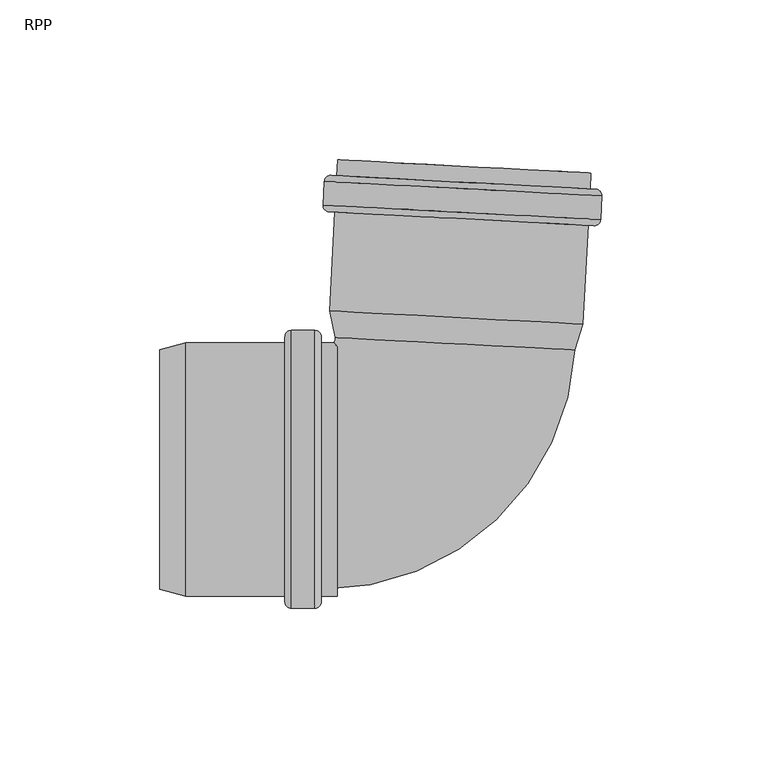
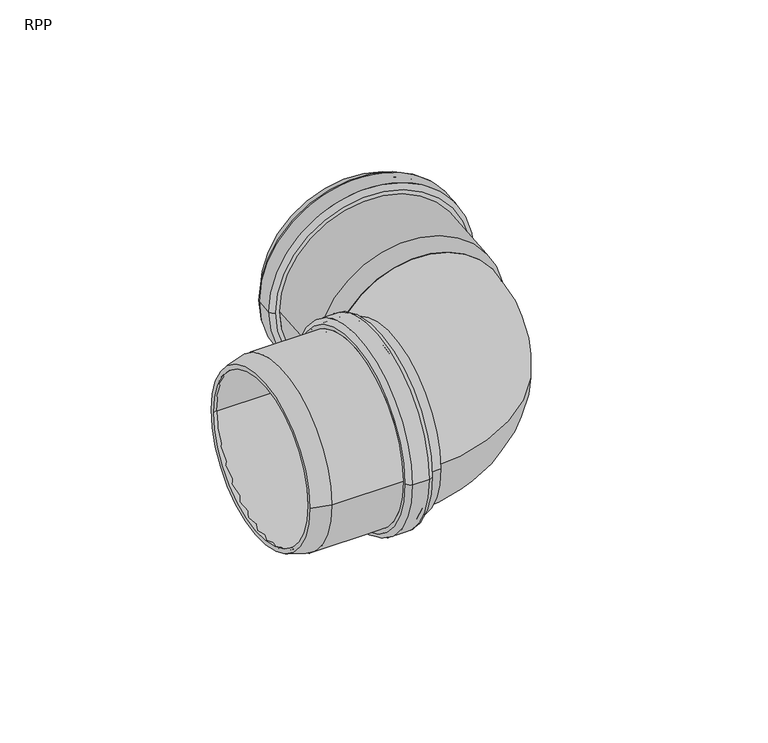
"""IFC4 building model written with IfcOpenShell, lengths in millimetres: pipe fitting geometry, RAUPIANO PLUS Bend : RPP."""

from ifc_helpers import new_model, si_unit, point, frame, origin, place, context, project, spatial, polyline, circle_curve, ellipse_curve, trimmed, source, transform, mapped, element, save
from ifc_brep_helpers import plane_surface, cylinder_surface, revolved_surface, advanced_brep


def rpp_31e62ba4(model_context):
    return source(origin(), model_context, "Body", "AdvancedBrep", [
        advanced_brep(
        [(-49.2820295, -37.8, 0.0), (-49.2820295, 37.8, 0.0), (-81.921378, 37.8, 0.0), (-81.921378, -37.8, 0.0), (-48.7820295, -41.6, 0.0), (-48.7820295, 41.6, 0.0), (-49.2820295, 41.1, 0.0), (-49.2820295, -41.1, 0.0), (-42.1820295, -41.6, 0.0), (-42.1820295, 41.6, 0.0), (-41.6820295, -41.1, 0.0), (-41.6820295, 41.1, 0.0), (-34.7820295, -37.8, 0.0), (-34.7820295, 37.8, 0.0), (-41.6820295, 37.8, 0.0), (-41.6820295, -37.8, 0.0), (-39.7820295, -39.7, 0.0), (-39.7820295, 39.7, 0.0), (-34.7820295, 39.7, 0.0), (-34.7820295, -39.7, 0.0), (-41.7820295, -43.5, 0.0), (-41.7820295, 43.5, 0.0), (-39.7820295, 41.5, 0.0), (-39.7820295, -41.5, 0.0), (-49.1820295, -43.5, 0.0), (-49.1820295, 43.5, 0.0), (-51.1820295, -41.5, 0.0), (-51.1820295, 41.5, 0.0), (-82.1715177, -39.7, 0.0), (-82.1715177, 39.7, 0.0), (-51.1820295, 39.7, 0.0), (-51.1820295, -39.7, 0.0), (-90.3820295, -37.5, 0.0), (-90.3820295, 37.5, 0.0), (-90.3820295, 35.5329753, 0.0), (-90.3820295, -35.5329753, 0.0)],
        [
            (0, 1, circle_curve(frame((-49.2820295, 0.0, 0.0), z_axis=(1.0, 0.0, 0.0), x_axis=(0.0, 1.0, 0.0)), 37.8)),
            (1, 2),
            (2, 3, circle_curve(frame((-81.921378, 0.0, 0.0), z_axis=(-1.0, 0.0, 0.0), x_axis=(0.0, 1.0, 0.0)), 37.8)),
            (3, 0),
            (4, 5, circle_curve(frame((-48.7820295, 0.0, 0.0), z_axis=(1.0, 0.0, 0.0), x_axis=(0.0, 1.0, 0.0)), 41.6)),
            (5, 6, circle_curve(frame((-48.7820295, 41.1, 0.0), z_axis=(0.0, 0.0, 1.0), x_axis=(0.0, -1.0, 0.0)), 0.5)),
            (6, 7, circle_curve(frame((-49.2820295, 0.0, 0.0), z_axis=(-1.0, 0.0, 0.0), x_axis=(0.0, 1.0, 0.0)), 41.1)),
            (7, 4, circle_curve(frame((-48.7820295, -41.1, 0.0), z_axis=(0.0, 0.0, 1.0), x_axis=(0.0, 1.0, 0.0)), 0.5)),
            (8, 9, circle_curve(frame((-42.1820295, 0.0, 0.0), z_axis=(1.0, 0.0, 0.0), x_axis=(0.0, 1.0, 0.0)), 41.6)),
            (9, 5),
            (4, 8),
            (10, 11, circle_curve(frame((-41.6820295, 0.0, 0.0), z_axis=(1.0, 0.0, 0.0), x_axis=(0.0, 1.0, 0.0)), 41.1)),
            (11, 9, circle_curve(frame((-42.1820295, 41.1, 0.0), z_axis=(0.0, 0.0, 1.0), x_axis=(0.0, -1.0, 0.0)), 0.5)),
            (8, 10, circle_curve(frame((-42.1820295, -41.1, 0.0), z_axis=(0.0, 0.0, 1.0), x_axis=(0.0, 1.0, 0.0)), 0.5)),
            (12, 13, circle_curve(frame((-34.7820295, 0.0, 0.0), z_axis=(1.0, 0.0, 0.0), x_axis=(0.0, 1.0, 0.0)), 37.8)),
            (13, 14),
            (14, 15, circle_curve(frame((-41.6820295, 0.0, 0.0), z_axis=(-1.0, 0.0, 0.0), x_axis=(0.0, 1.0, 0.0)), 37.8)),
            (15, 12),
            (16, 17, circle_curve(frame((-39.7820295, 0.0, 0.0), z_axis=(1.0, 0.0, 0.0), x_axis=(0.0, 1.0, 0.0)), 39.7)),
            (17, 18),
            (18, 19, circle_curve(frame((-34.7820295, 0.0, 0.0), z_axis=(-1.0, 0.0, 0.0), x_axis=(0.0, 1.0, 0.0)), 39.7)),
            (19, 16),
            (20, 21, circle_curve(frame((-41.7820295, 0.0, 0.0), z_axis=(1.0, 0.0, 0.0), x_axis=(0.0, 1.0, 0.0)), 43.5)),
            (21, 22, circle_curve(frame((-41.7820295, 41.5, 0.0), z_axis=(0.0, 0.0, -1.0), x_axis=(0.0, -1.0, 0.0)), 2.0)),
            (22, 23, circle_curve(frame((-39.7820295, 0.0, 0.0), z_axis=(-1.0, 0.0, 0.0), x_axis=(0.0, 1.0, 0.0)), 41.5)),
            (23, 20, circle_curve(frame((-41.7820295, -41.5, 0.0), z_axis=(0.0, 0.0, -1.0), x_axis=(0.0, 1.0, 0.0)), 2.0)),
            (24, 25, circle_curve(frame((-49.1820295, 0.0, 0.0), z_axis=(1.0, 0.0, 0.0), x_axis=(0.0, 1.0, 0.0)), 43.5)),
            (25, 21),
            (20, 24),
            (26, 27, circle_curve(frame((-51.1820295, 0.0, 0.0), z_axis=(1.0, 0.0, 0.0), x_axis=(0.0, 1.0, 0.0)), 41.5)),
            (27, 25, circle_curve(frame((-49.1820295, 41.5, 0.0), z_axis=(0.0, 0.0, -1.0), x_axis=(0.0, -1.0, 0.0)), 2.0)),
            (24, 26, circle_curve(frame((-49.1820295, -41.5, 0.0), z_axis=(0.0, 0.0, -1.0), x_axis=(0.0, 1.0, 0.0)), 2.0)),
            (28, 29, circle_curve(frame((-82.1715177, 0.0, 0.0), z_axis=(1.0, 0.0, 0.0), x_axis=(0.0, 1.0, 0.0)), 39.7)),
            (29, 30),
            (30, 31, circle_curve(frame((-51.1820295, 0.0, 0.0), z_axis=(-1.0, 0.0, 0.0), x_axis=(0.0, 1.0, 0.0)), 39.7)),
            (31, 28),
            (32, 33, circle_curve(frame((-90.3820295, 0.0, 0.0), z_axis=(1.0, 0.0, 0.0), x_axis=(0.0, 1.0, 0.0)), 37.5)),
            (33, 29),
            (28, 32),
            (2, 34),
            (34, 35, circle_curve(frame((-90.3820295, 0.0, 0.0), z_axis=(-1.0, 0.0, 0.0), x_axis=(0.0, 1.0, 0.0)), 35.5329753)),
            (35, 3),
            (1, 0, circle_curve(frame((-49.2820295, 0.0, 0.0), z_axis=(1.0, 0.0, 0.0), x_axis=(0.0, -1.0, 0.0)), 37.8)),
            (3, 2, circle_curve(frame((-81.921378, 0.0, 0.0), z_axis=(-1.0, 0.0, 0.0), x_axis=(0.0, -1.0, 0.0)), 37.8)),
            (6, 7, circle_curve(frame((-49.2820295, 0.0, 0.0), z_axis=(1.0, 0.0, 0.0), x_axis=(0.0, -1.0, 0.0)), 41.1)),
            (5, 4, circle_curve(frame((-48.7820295, 0.0, 0.0), z_axis=(1.0, 0.0, 0.0), x_axis=(0.0, -1.0, 0.0)), 41.6)),
            (9, 8, circle_curve(frame((-42.1820295, 0.0, 0.0), z_axis=(1.0, 0.0, 0.0), x_axis=(0.0, -1.0, 0.0)), 41.6)),
            (11, 10, circle_curve(frame((-41.6820295, 0.0, 0.0), z_axis=(1.0, 0.0, 0.0), x_axis=(0.0, -1.0, 0.0)), 41.1)),
            (14, 15, circle_curve(frame((-41.6820295, 0.0, 0.0), z_axis=(1.0, 0.0, 0.0), x_axis=(0.0, -1.0, 0.0)), 37.8)),
            (13, 12, circle_curve(frame((-34.7820295, 0.0, 0.0), z_axis=(1.0, 0.0, 0.0), x_axis=(0.0, -1.0, 0.0)), 37.8)),
            (18, 19, circle_curve(frame((-34.7820295, 0.0, 0.0), z_axis=(1.0, 0.0, 0.0), x_axis=(0.0, -1.0, 0.0)), 39.7)),
            (17, 16, circle_curve(frame((-39.7820295, 0.0, 0.0), z_axis=(1.0, 0.0, 0.0), x_axis=(0.0, -1.0, 0.0)), 39.7)),
            (22, 23, circle_curve(frame((-39.7820295, 0.0, 0.0), z_axis=(1.0, 0.0, 0.0), x_axis=(0.0, -1.0, 0.0)), 41.5)),
            (21, 20, circle_curve(frame((-41.7820295, 0.0, 0.0), z_axis=(1.0, 0.0, 0.0), x_axis=(0.0, -1.0, 0.0)), 43.5)),
            (25, 24, circle_curve(frame((-49.1820295, 0.0, 0.0), z_axis=(1.0, 0.0, 0.0), x_axis=(0.0, -1.0, 0.0)), 43.5)),
            (27, 26, circle_curve(frame((-51.1820295, 0.0, 0.0), z_axis=(1.0, 0.0, 0.0), x_axis=(0.0, -1.0, 0.0)), 41.5)),
            (30, 31, circle_curve(frame((-51.1820295, 0.0, 0.0), z_axis=(1.0, 0.0, 0.0), x_axis=(0.0, -1.0, 0.0)), 39.7)),
            (29, 28, circle_curve(frame((-82.1715177, 0.0, 0.0), z_axis=(1.0, 0.0, 0.0), x_axis=(0.0, -1.0, 0.0)), 39.7)),
            (33, 32, circle_curve(frame((-90.3820295, 0.0, 0.0), z_axis=(1.0, 0.0, 0.0), x_axis=(0.0, -1.0, 0.0)), 37.5)),
            (34, 35, circle_curve(frame((-90.3820295, 0.0, 0.0), z_axis=(1.0, 0.0, 0.0), x_axis=(0.0, -1.0, 0.0)), 35.5329753)),
        ],
        [
            revolved_surface(polyline([(-81.921378, 37.8, 0.0), (-49.2820295, 37.8, 0.0)]), (-90.3820295, 0.0, 0.0), (-1.0, 0.0, 0.0)),
            revolved_surface(trimmed(ellipse_curve(frame((-48.7820295, 41.1, 0.0), z_axis=(0.0, 0.0, -1.0), x_axis=(0.0, -1.0, 0.0)), 0.5, 0.5), [point((-49.2820295, 41.1, 0.0))], [point((-48.7820295, 41.6, 0.0))], True, "CARTESIAN"), (-90.3820295, 0.0, 0.0), (-1.0, 0.0, 0.0)),
            revolved_surface(polyline([(-48.7820295, 41.6, 0.0), (-42.1820295, 41.6, 0.0)]), (-90.3820295, 0.0, 0.0), (-1.0, 0.0, 0.0)),
            revolved_surface(trimmed(ellipse_curve(frame((-42.1820295, 41.1, 0.0), z_axis=(0.0, 0.0, -1.0), x_axis=(0.0, -1.0, 0.0)), 0.5, 0.5), [point((-42.1820295, 41.6, 0.0))], [point((-41.6820295, 41.1, 0.0))], True, "CARTESIAN"), (-90.3820295, 0.0, 0.0), (-1.0, 0.0, 0.0)),
            revolved_surface(polyline([(-41.6820295, 37.8, 0.0), (-34.7820295, 37.8, 0.0)]), (-90.3820295, 0.0, 0.0), (-1.0, 0.0, 0.0)),
            cylinder_surface(frame((-90.3820295, 0.0, 0.0), z_axis=(-1.0, 0.0, 0.0), x_axis=(0.0, 1.0, 0.0)), 39.7),
            revolved_surface(trimmed(ellipse_curve(frame((-41.7820295, 41.5, 0.0), z_axis=(0.0, 0.0, 1.0), x_axis=(0.0, -1.0, 0.0)), 2.0, 2.0), [point((-39.7820295, 41.5, 0.0))], [point((-41.7820295, 43.5, 0.0))], True, "CARTESIAN"), (-90.3820295, 0.0, 0.0), (-1.0, 0.0, 0.0)),
            cylinder_surface(frame((-90.3820295, 0.0, 0.0), z_axis=(-1.0, 0.0, 0.0), x_axis=(0.0, 1.0, 0.0)), 43.5),
            revolved_surface(trimmed(ellipse_curve(frame((-49.1820295, 41.5, 0.0), z_axis=(0.0, 0.0, 1.0), x_axis=(0.0, -1.0, 0.0)), 2.0, 2.0), [point((-49.1820295, 43.5, 0.0))], [point((-51.1820295, 41.5, 0.0))], True, "CARTESIAN"), (-90.3820295, 0.0, 0.0), (-1.0, 0.0, 0.0)),
            revolved_surface(polyline([(-82.1715177, 39.7, 0.0), (-90.3820295, 37.5, 0.0)]), (-90.3820295, 0.0, 0.0), (-1.0, 0.0, 0.0)),
            revolved_surface(polyline([(-90.3820295, 35.5329753, 0.0), (-81.921378, 37.8, 0.0)]), (-90.3820295, 0.0, 0.0), (-1.0, 0.0, 0.0)),
            revolved_surface(polyline([(-81.921378, -37.8, 0.0), (-49.2820295, -37.8, 0.0)]), (-90.3820295, 0.0, 0.0), (-1.0, 0.0, 0.0)),
            plane_surface(frame((-49.2820295, 0.0, 0.0), z_axis=(1.0, 0.0, 0.0), x_axis=(0.0, -1.0, 0.0))),
            revolved_surface(trimmed(ellipse_curve(frame((-48.7820295, -41.1, 0.0), z_axis=(0.0, 0.0, 1.0), x_axis=(0.0, 1.0, 0.0)), 0.5, 0.5), [point((-49.2820295, -41.1, 0.0))], [point((-48.7820295, -41.6, 0.0))], True, "CARTESIAN"), (-90.3820295, 0.0, 0.0), (-1.0, 0.0, 0.0)),
            revolved_surface(polyline([(-48.7820295, -41.6, 0.0), (-42.1820295, -41.6, 0.0)]), (-90.3820295, 0.0, 0.0), (-1.0, 0.0, 0.0)),
            revolved_surface(trimmed(ellipse_curve(frame((-42.1820295, -41.1, 0.0), z_axis=(0.0, 0.0, 1.0), x_axis=(0.0, 1.0, 0.0)), 0.5, 0.5), [point((-42.1820295, -41.6, 0.0))], [point((-41.6820295, -41.1, 0.0))], True, "CARTESIAN"), (-90.3820295, 0.0, 0.0), (-1.0, 0.0, 0.0)),
            plane_surface(frame((-41.6820295, 0.0, 0.0), z_axis=(-1.0, 0.0, 0.0), x_axis=(0.0, -1.0, 0.0))),
            revolved_surface(polyline([(-41.6820295, -37.8, 0.0), (-34.7820295, -37.8, 0.0)]), (-90.3820295, 0.0, 0.0), (-1.0, 0.0, 0.0)),
            plane_surface(frame((-34.7820295, 0.0, 0.0), z_axis=(1.0, 0.0, 0.0), x_axis=(0.0, -1.0, 0.0))),
            cylinder_surface(frame((-90.3820295, 0.0, 0.0), z_axis=(-1.0, 0.0, 0.0), x_axis=(0.0, -1.0, 0.0)), 39.7),
            plane_surface(frame((-39.7820295, 0.0, 0.0), z_axis=(1.0, 0.0, 0.0), x_axis=(0.0, -1.0, 0.0))),
            revolved_surface(trimmed(ellipse_curve(frame((-41.7820295, -41.5, 0.0), z_axis=(0.0, 0.0, -1.0), x_axis=(0.0, 1.0, 0.0)), 2.0, 2.0), [point((-39.7820295, -41.5, 0.0))], [point((-41.7820295, -43.5, 0.0))], True, "CARTESIAN"), (-90.3820295, 0.0, 0.0), (-1.0, 0.0, 0.0)),
            cylinder_surface(frame((-90.3820295, 0.0, 0.0), z_axis=(-1.0, 0.0, 0.0), x_axis=(0.0, -1.0, 0.0)), 43.5),
            revolved_surface(trimmed(ellipse_curve(frame((-49.1820295, -41.5, 0.0), z_axis=(0.0, 0.0, -1.0), x_axis=(0.0, 1.0, 0.0)), 2.0, 2.0), [point((-49.1820295, -43.5, 0.0))], [point((-51.1820295, -41.5, 0.0))], True, "CARTESIAN"), (-90.3820295, 0.0, 0.0), (-1.0, 0.0, 0.0)),
            plane_surface(frame((-51.1820295, 0.0, 0.0), z_axis=(-1.0, 0.0, 0.0), x_axis=(0.0, -1.0, 0.0))),
            revolved_surface(polyline([(-82.1715177, -39.7, 0.0), (-90.3820295, -37.5, 0.0)]), (-90.3820295, 0.0, 0.0), (-1.0, 0.0, 0.0)),
            plane_surface(frame((-90.3820295, 0.0, 0.0), z_axis=(-1.0, 0.0, 0.0), x_axis=(0.0, -1.0, 0.0))),
            revolved_surface(polyline([(-90.3820295, -35.5329753, 0.0), (-81.921378, -37.8, 0.0)]), (-90.3820295, 0.0, 0.0), (-1.0, 0.0, 0.0)),
        ],
        [
            (0, [[1, 2, 3, 4]]),
            (1, [[5, 6, 7, 8]]),
            (2, [[9, 10, -5, 11]]),
            (3, [[12, 13, -9, 14]]),
            (4, [[15, 16, 17, 18]]),
            (5, [[19, 20, 21, 22]]),
            (6, [[23, 24, 25, 26]]),
            (7, [[27, 28, -23, 29]]),
            (8, [[30, 31, -27, 32]]),
            (5, [[33, 34, 35, 36]]),
            (9, [[37, 38, -33, 39]]),
            (10, [[-3, 40, 41, 42]]),
            (11, [[43, -4, 44, -2]]),
            (12, [[45, -7], [-43, -1]]),
            (13, [[46, -8, -45, -6]]),
            (14, [[47, -11, -46, -10]]),
            (15, [[48, -14, -47, -13]]),
            (16, [[-48, -12], [49, -17]]),
            (17, [[50, -18, -49, -16]]),
            (18, [[51, -21], [-50, -15]]),
            (19, [[52, -22, -51, -20]]),
            (20, [[53, -25], [-52, -19]]),
            (21, [[54, -26, -53, -24]]),
            (22, [[55, -29, -54, -28]]),
            (23, [[56, -32, -55, -31]]),
            (24, [[-56, -30], [57, -35]]),
            (19, [[58, -36, -57, -34]]),
            (25, [[59, -39, -58, -38]]),
            (26, [[-59, -37], [60, -41]]),
            (27, [[-44, -42, -60, -40]]),
        ],
    ),
        advanced_brep(
        [(37.5453747, 37.4684056, 0.0), (-33.4231824, 41.1877101, 0.0), (-35.244304, 49.7554135, 0.0), (40.2520889, 45.7988152, 0.0), (42.1363937, 45.4495799, 0.0), (-37.1547914, 49.6050548, 0.0), (-35.3875114, 41.2906562, 0.0), (39.5097037, 37.3654595, 0.0), (43.7582582, 76.3965981, 0.0), (-35.5329269, 80.552073, 0.0), (48.0450084, 85.5848391, 0.0), (-38.8357611, 90.1380673, 0.0), (-39.2230472, 82.7482087, 0.0), (47.6577223, 78.1949806, 0.0), (44.6165679, 92.7741225, 0.0), (-34.6746172, 96.9295974, 0.0), (-34.936297, 91.9364497, 0.0), (44.3548881, 87.7809748, 0.0), (42.3580537, 85.983017, 0.0), (-33.1383392, 89.9396153, 0.0), (-32.7772211, 96.8301591, 0.0), (42.7191718, 92.8735608, 0.0), (45.7812606, 78.6938707, 0.0), (-37.3047167, 83.0482222, 0.0), (-36.9592994, 89.6391772, 0.0), (46.1266779, 85.2848256, 0.0), (-33.5360924, 82.3500308, 0.0), (41.9603004, 78.3934325, 0.0), (-37.33046, 80.6462778, 0.0), (45.5557914, 76.3023934, 0.0), (46.1524213, 87.6867701, 0.0), (-36.7338301, 92.0306545, 0.0), (-36.4338166, 90.112324, 0.0), (45.6535311, 85.8103084, 0.0), (45.2557779, 78.2207239, 0.0), (-36.8315699, 82.5227395, 0.0)],
        [
            (0, 1, circle_curve(frame((2.0610962, 39.3280578, 0.0), z_axis=(-0.05233595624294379, -0.9986295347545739, 0.0), x_axis=(-0.9986295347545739, 0.05233595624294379, 0.0)), 35.5329753)),
            (1, 2),
            (2, 3, circle_curve(frame((2.5038925, 47.7771143, 0.0), z_axis=(0.05233595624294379, 0.9986295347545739, 0.0), x_axis=(-0.9986295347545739, 0.05233595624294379, 0.0)), 37.8)),
            (3, 0),
            (4, 5, circle_curve(frame((2.4908012, 47.5273174, 0.0), z_axis=(-0.05233595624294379, -0.9986295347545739, 0.0), x_axis=(-0.9986295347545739, 0.05233595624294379, 0.0)), 39.7)),
            (5, 6),
            (6, 7, circle_curve(frame((2.0610962, 39.3280578, 0.0), z_axis=(0.05233595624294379, 0.9986295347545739, 0.0), x_axis=(-0.9986295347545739, 0.05233595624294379, 0.0)), 37.5)),
            (7, 4),
            (8, 9, circle_curve(frame((4.1126657, 78.4743356, 0.0), z_axis=(-0.05233595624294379, -0.9986295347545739, 0.0), x_axis=(-0.9986295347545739, 0.05233595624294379, 0.0)), 39.7)),
            (9, 5),
            (4, 8),
            (10, 11, circle_curve(frame((4.6046236, 87.8614532, 0.0), z_axis=(-0.05233595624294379, -0.9986295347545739, 0.0), x_axis=(-0.9986295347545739, 0.05233595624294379, 0.0)), 43.5)),
            (11, 12),
            (12, 13, circle_curve(frame((4.2173376, 80.4715946, 0.0), z_axis=(0.05233595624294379, 0.9986295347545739, 0.0), x_axis=(-0.9986295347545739, 0.05233595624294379, 0.0)), 43.5)),
            (13, 10),
            (14, 15, circle_curve(frame((4.9709753, 94.8518599, 0.0), z_axis=(-0.05233595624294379, -0.9986295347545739, 0.0), x_axis=(-0.9986295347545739, 0.05233595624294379, 0.0)), 39.7)),
            (15, 16),
            (16, 17, circle_curve(frame((4.7092956, 89.8587123, 0.0), z_axis=(0.05233595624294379, 0.9986295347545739, 0.0), x_axis=(-0.9986295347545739, 0.05233595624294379, 0.0)), 39.7)),
            (17, 14),
            (18, 19, circle_curve(frame((4.6098572, 87.9613162, 0.0), z_axis=(-0.05233595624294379, -0.9986295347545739, 0.0), x_axis=(-0.9986295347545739, 0.05233595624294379, 0.0)), 37.8)),
            (19, 20),
            (20, 21, circle_curve(frame((4.9709753, 94.8518599, 0.0), z_axis=(0.05233595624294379, 0.9986295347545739, 0.0), x_axis=(-0.9986295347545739, 0.05233595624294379, 0.0)), 37.8)),
            (21, 18),
            (22, 23, circle_curve(frame((4.238272, 80.8710465, 0.0), z_axis=(-0.05233595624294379, -0.9986295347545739, 0.0), x_axis=(-0.9986295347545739, 0.05233595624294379, 0.0)), 41.6)),
            (23, 24),
            (24, 25, circle_curve(frame((4.5836893, 87.4620014, 0.0), z_axis=(0.05233595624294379, 0.9986295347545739, 0.0), x_axis=(-0.9986295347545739, 0.05233595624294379, 0.0)), 41.6)),
            (25, 22),
            (2, 26),
            (26, 27, circle_curve(frame((4.212104, 80.3717317, 0.0), z_axis=(0.05233595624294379, 0.9986295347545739, 0.0), x_axis=(-0.9986295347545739, 0.05233595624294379, 0.0)), 37.8)),
            (27, 3),
            (1, 0, circle_curve(frame((2.0610962, 39.3280578, 0.0), z_axis=(-0.05233595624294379, -0.9986295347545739, 0.0), x_axis=(0.9986295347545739, -0.05233595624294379, 0.0)), 35.5329753)),
            (3, 2, circle_curve(frame((2.5038925, 47.7771143, 0.0), z_axis=(0.05233595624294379, 0.9986295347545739, 0.0), x_axis=(0.9986295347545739, -0.05233595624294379, 0.0)), 37.8)),
            (6, 7, circle_curve(frame((2.0610962, 39.3280578, 0.0), z_axis=(-0.05233595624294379, -0.9986295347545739, 0.0), x_axis=(0.9986295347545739, -0.05233595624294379, 0.0)), 37.5)),
            (5, 4, circle_curve(frame((2.4908012, 47.5273174, 0.0), z_axis=(-0.05233595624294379, -0.9986295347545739, 0.0), x_axis=(0.9986295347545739, -0.05233595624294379, 0.0)), 39.7)),
            (9, 8, circle_curve(frame((4.1126657, 78.4743356, 0.0), z_axis=(-0.05233595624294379, -0.9986295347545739, 0.0), x_axis=(0.9986295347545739, -0.05233595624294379, 0.0)), 39.7)),
            (28, 29, circle_curve(frame((4.1126657, 78.4743356, 0.0), z_axis=(-0.05233595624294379, -0.9986295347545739, 0.0), x_axis=(0.9986295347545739, -0.05233595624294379, 0.0)), 41.5)),
            (29, 28, circle_curve(frame((4.1126657, 78.4743356, 0.0), z_axis=(-0.05233595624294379, -0.9986295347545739, 0.0), x_axis=(-0.9986295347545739, 0.05233595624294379, 0.0)), 41.5)),
            (11, 10, circle_curve(frame((4.6046236, 87.8614532, 0.0), z_axis=(-0.05233595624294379, -0.9986295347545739, 0.0), x_axis=(0.9986295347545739, -0.05233595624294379, 0.0)), 43.5)),
            (13, 12, circle_curve(frame((4.2173376, 80.4715946, 0.0), z_axis=(0.05233595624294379, 0.9986295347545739, 0.0), x_axis=(0.9986295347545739, -0.05233595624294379, 0.0)), 43.5)),
            (30, 31, circle_curve(frame((4.7092956, 89.8587123, 0.0), z_axis=(0.05233595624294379, 0.9986295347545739, 0.0), x_axis=(0.9986295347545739, -0.05233595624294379, 0.0)), 41.5)),
            (31, 30, circle_curve(frame((4.7092956, 89.8587123, 0.0), z_axis=(0.05233595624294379, 0.9986295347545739, 0.0), x_axis=(-0.9986295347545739, 0.05233595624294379, 0.0)), 41.5)),
            (16, 17, circle_curve(frame((4.7092956, 89.8587123, 0.0), z_axis=(-0.05233595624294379, -0.9986295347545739, 0.0), x_axis=(0.9986295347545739, -0.05233595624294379, 0.0)), 39.7)),
            (15, 14, circle_curve(frame((4.9709753, 94.8518599, 0.0), z_axis=(-0.05233595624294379, -0.9986295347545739, 0.0), x_axis=(0.9986295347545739, -0.05233595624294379, 0.0)), 39.7)),
            (20, 21, circle_curve(frame((4.9709753, 94.8518599, 0.0), z_axis=(-0.05233595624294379, -0.9986295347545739, 0.0), x_axis=(0.9986295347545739, -0.05233595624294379, 0.0)), 37.8)),
            (19, 18, circle_curve(frame((4.6098572, 87.9613162, 0.0), z_axis=(-0.05233595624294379, -0.9986295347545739, 0.0), x_axis=(0.9986295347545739, -0.05233595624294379, 0.0)), 37.8)),
            (32, 33, circle_curve(frame((4.6098572, 87.9613162, 0.0), z_axis=(-0.05233595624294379, -0.9986295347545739, 0.0), x_axis=(0.9986295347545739, -0.05233595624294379, 0.0)), 41.1)),
            (33, 32, circle_curve(frame((4.6098572, 87.9613162, 0.0), z_axis=(-0.05233595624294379, -0.9986295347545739, 0.0), x_axis=(-0.9986295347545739, 0.05233595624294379, 0.0)), 41.1)),
            (23, 22, circle_curve(frame((4.238272, 80.8710465, 0.0), z_axis=(-0.05233595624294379, -0.9986295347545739, 0.0), x_axis=(0.9986295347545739, -0.05233595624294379, 0.0)), 41.6)),
            (25, 24, circle_curve(frame((4.5836893, 87.4620014, 0.0), z_axis=(0.05233595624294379, 0.9986295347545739, 0.0), x_axis=(0.9986295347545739, -0.05233595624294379, 0.0)), 41.6)),
            (34, 35, circle_curve(frame((4.212104, 80.3717317, 0.0), z_axis=(0.05233595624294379, 0.9986295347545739, 0.0), x_axis=(0.9986295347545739, -0.05233595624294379, 0.0)), 41.1)),
            (35, 34, circle_curve(frame((4.212104, 80.3717317, 0.0), z_axis=(0.05233595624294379, 0.9986295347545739, 0.0), x_axis=(-0.9986295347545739, 0.05233595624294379, 0.0)), 41.1)),
            (26, 27, circle_curve(frame((4.212104, 80.3717317, 0.0), z_axis=(-0.05233595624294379, -0.9986295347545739, 0.0), x_axis=(0.9986295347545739, -0.05233595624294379, 0.0)), 37.8)),
            (12, 28, circle_curve(frame((-37.2257881, 82.6435368, 0.0), z_axis=(0.0, 0.0, 1.0), x_axis=(0.9986295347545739, -0.05233595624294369, 0.0)), 2.0)),
            (29, 13, circle_curve(frame((45.6604633, 78.2996525, 0.0), z_axis=(0.0, 0.0, 1.0), x_axis=(-0.9986295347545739, 0.0523359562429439, 0.0)), 2.0)),
            (31, 11, circle_curve(frame((-36.838502, 90.0333954, 0.0), z_axis=(0.0, 0.0, 1.0), x_axis=(0.9986295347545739, -0.05233595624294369, 0.0)), 2.0)),
            (10, 30, circle_curve(frame((46.0477493, 85.689511, 0.0), z_axis=(0.0, 0.0, 1.0), x_axis=(-0.9986295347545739, 0.0523359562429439, 0.0)), 2.0)),
            (24, 32, circle_curve(frame((-36.4599846, 89.6130092, 0.0), z_axis=(0.0, 0.0, -1.0), x_axis=(0.9986295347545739, -0.05233595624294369, 0.0)), 0.5)),
            (33, 25, circle_curve(frame((45.6273631, 85.3109936, 0.0), z_axis=(0.0, 0.0, -1.0), x_axis=(-0.9986295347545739, 0.0523359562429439, 0.0)), 0.5)),
            (35, 23, circle_curve(frame((-36.8054019, 83.0220543, 0.0), z_axis=(0.0, 0.0, -1.0), x_axis=(0.9986295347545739, -0.05233595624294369, 0.0)), 0.5)),
            (22, 34, circle_curve(frame((45.2819458, 78.7200387, 0.0), z_axis=(0.0, 0.0, -1.0), x_axis=(-0.9986295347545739, 0.0523359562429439, 0.0)), 0.5)),
        ],
        [
            revolved_surface(polyline([(-35.244304, 49.7554135, 0.0), (-33.4231824, 41.1877101, 0.0)]), (2.0610962, 39.3280578, 0.0), (0.05233595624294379, 0.9986295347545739, 0.0)),
            revolved_surface(polyline([(-35.3875114, 41.2906562, 0.0), (-37.1547914, 49.6050548, 0.0)]), (2.0610962, 39.3280578, 0.0), (0.05233595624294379, 0.9986295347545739, 0.0)),
            cylinder_surface(frame((2.0610962, 39.3280578, 0.0), z_axis=(0.05233595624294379, 0.9986295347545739, 0.0), x_axis=(-0.9986295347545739, 0.05233595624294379, 0.0)), 39.7),
            cylinder_surface(frame((2.0610962, 39.3280578, 0.0), z_axis=(0.05233595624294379, 0.9986295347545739, 0.0), x_axis=(-0.9986295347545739, 0.05233595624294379, 0.0)), 43.5),
            revolved_surface(polyline([(-32.777221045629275, 96.83015909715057, 0.0), (-33.13833914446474, 89.93961529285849, 0.0)]), (2.0610962, 39.3280578, 0.0), (0.05233595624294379, 0.9986295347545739, 0.0)),
            revolved_surface(polyline([(-36.959299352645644, 89.63917719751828, 0.0), (-37.304716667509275, 83.04822219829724, 0.0)]), (2.0610962, 39.3280578, 0.0), (0.05233595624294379, 0.9986295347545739, 0.0)),
            revolved_surface(polyline([(-33.53609241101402, 82.35003084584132, 0.0), (-35.24430392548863, 49.755413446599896, 0.0)]), (2.0610962, 39.3280578, 0.0), (0.05233595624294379, 0.9986295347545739, 0.0)),
            revolved_surface(polyline([(40.2520889, 45.7988152, 0.0), (37.5453747, 37.4684056, 0.0)]), (2.0610962, 39.3280578, 0.0), (0.05233595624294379, 0.9986295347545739, 0.0)),
            plane_surface(frame((2.0610962, 39.3280578, 0.0), z_axis=(-0.05233595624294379, -0.9986295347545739, 0.0), x_axis=(0.9986295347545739, -0.05233595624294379, 0.0))),
            revolved_surface(polyline([(39.5097037, 37.3654595, 0.0), (42.1363937, 45.4495799, 0.0)]), (2.0610962, 39.3280578, 0.0), (0.05233595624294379, 0.9986295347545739, 0.0)),
            cylinder_surface(frame((2.0610962, 39.3280578, 0.0), z_axis=(0.05233595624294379, 0.9986295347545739, 0.0), x_axis=(0.9986295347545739, -0.05233595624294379, 0.0)), 39.7),
            plane_surface(frame((4.1126657, 78.4743356, 0.0), z_axis=(-0.05233595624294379, -0.9986295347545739, 0.0), x_axis=(0.9986295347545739, -0.05233595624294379, 0.0))),
            cylinder_surface(frame((2.0610962, 39.3280578, 0.0), z_axis=(0.05233595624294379, 0.9986295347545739, 0.0), x_axis=(0.9986295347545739, -0.05233595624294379, 0.0)), 43.5),
            plane_surface(frame((4.7092956, 89.8587123, 0.0), z_axis=(0.05233595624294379, 0.9986295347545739, 0.0), x_axis=(0.9986295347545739, -0.05233595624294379, 0.0))),
            plane_surface(frame((4.9709753, 94.8518599, 0.0), z_axis=(0.05233595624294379, 0.9986295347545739, 0.0), x_axis=(0.9986295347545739, -0.05233595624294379, 0.0))),
            revolved_surface(polyline([(42.71917178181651, 92.87356080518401, 0.0), (42.35805368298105, 85.98301700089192, 0.0)]), (2.0610962, 39.3280578, 0.0), (0.05233595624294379, 0.9986295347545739, 0.0)),
            plane_surface(frame((4.6098572, 87.9613162, 0.0), z_axis=(-0.05233595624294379, -0.9986295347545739, 0.0), x_axis=(0.9986295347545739, -0.05233595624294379, 0.0))),
            revolved_surface(polyline([(46.126677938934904, 85.28482563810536, 0.0), (45.78126062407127, 78.69387063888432, 0.0)]), (2.0610962, 39.3280578, 0.0), (0.05233595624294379, 0.9986295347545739, 0.0)),
            plane_surface(frame((4.212104, 80.3717317, 0.0), z_axis=(0.05233595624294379, 0.9986295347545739, 0.0), x_axis=(0.9986295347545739, -0.05233595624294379, 0.0))),
            revolved_surface(polyline([(41.96030041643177, 78.39343255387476, 0.0), (40.25208890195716, 45.79881515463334, 0.0)]), (2.0610962, 39.3280578, 0.0), (0.05233595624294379, 0.9986295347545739, 0.0)),
            revolved_surface(trimmed(ellipse_curve(frame((-37.2257881, 82.6435368, 0.0), z_axis=(0.0, 0.0, -1.0), x_axis=(0.9986295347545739, -0.05233595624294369, 0.0)), 2.0, 2.0), [point((-37.33046, 80.6462778, 0.0))], [point((-39.2230472, 82.7482087, 0.0))], True, "CARTESIAN"), (2.0610962, 39.3280578, 0.0), (0.05233595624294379, 0.9986295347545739, 0.0)),
            revolved_surface(trimmed(ellipse_curve(frame((-36.838502, 90.0333954, 0.0), z_axis=(0.0, 0.0, -1.0), x_axis=(0.9986295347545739, -0.05233595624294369, 0.0)), 2.0, 2.0), [point((-38.8357611, 90.1380673, 0.0))], [point((-36.7338301, 92.0306545, 0.0))], True, "CARTESIAN"), (2.0610962, 39.3280578, 0.0), (0.05233595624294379, 0.9986295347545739, 0.0)),
            revolved_surface(trimmed(ellipse_curve(frame((-36.4599846, 89.6130092, 0.0), z_axis=(0.0, 0.0, 1.0), x_axis=(0.9986295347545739, -0.05233595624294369, 0.0)), 0.5, 0.5), [point((-36.4338166, 90.112324, 0.0))], [point((-36.9592994, 89.6391772, 0.0))], True, "CARTESIAN"), (2.0610962, 39.3280578, 0.0), (0.05233595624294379, 0.9986295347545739, 0.0)),
            revolved_surface(trimmed(ellipse_curve(frame((-36.8054019, 83.0220543, 0.0), z_axis=(0.0, 0.0, 1.0), x_axis=(0.9986295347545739, -0.05233595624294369, 0.0)), 0.5, 0.5), [point((-37.3047167, 83.0482222, 0.0))], [point((-36.8315699, 82.5227395, 0.0))], True, "CARTESIAN"), (2.0610962, 39.3280578, 0.0), (0.05233595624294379, 0.9986295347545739, 0.0)),
            revolved_surface(trimmed(ellipse_curve(frame((45.6604633, 78.2996525, 0.0), z_axis=(0.0, 0.0, 1.0), x_axis=(-0.9986295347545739, 0.052335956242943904, 0.0)), 2.0, 2.0), [point((45.5557914, 76.3023934, 0.0))], [point((47.6577223, 78.1949806, 0.0))], True, "CARTESIAN"), (2.0610962, 39.3280578, 0.0), (0.05233595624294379, 0.9986295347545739, 0.0)),
            revolved_surface(trimmed(ellipse_curve(frame((46.0477493, 85.689511, 0.0), z_axis=(0.0, 0.0, 1.0), x_axis=(-0.9986295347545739, 0.052335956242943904, 0.0)), 2.0, 2.0), [point((48.0450084, 85.5848391, 0.0))], [point((46.1524213, 87.6867701, 0.0))], True, "CARTESIAN"), (2.0610962, 39.3280578, 0.0), (0.05233595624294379, 0.9986295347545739, 0.0)),
            revolved_surface(trimmed(ellipse_curve(frame((45.6273631, 85.3109936, 0.0), z_axis=(0.0, 0.0, -1.0), x_axis=(-0.9986295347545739, 0.052335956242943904, 0.0)), 0.5, 0.5), [point((45.6535311, 85.8103084, 0.0))], [point((46.1266779, 85.2848256, 0.0))], True, "CARTESIAN"), (2.0610962, 39.3280578, 0.0), (0.05233595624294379, 0.9986295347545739, 0.0)),
            revolved_surface(trimmed(ellipse_curve(frame((45.2819458, 78.7200387, 0.0), z_axis=(0.0, 0.0, -1.0), x_axis=(-0.9986295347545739, 0.052335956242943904, 0.0)), 0.5, 0.5), [point((45.7812606, 78.6938707, 0.0))], [point((45.2557779, 78.2207239, 0.0))], True, "CARTESIAN"), (2.0610962, 39.3280578, 0.0), (0.05233595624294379, 0.9986295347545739, 0.0)),
        ],
        [
            (0, [[1, 2, 3, 4]]),
            (1, [[5, 6, 7, 8]]),
            (2, [[9, 10, -5, 11]]),
            (3, [[12, 13, 14, 15]]),
            (2, [[16, 17, 18, 19]]),
            (4, [[20, 21, 22, 23]]),
            (5, [[24, 25, 26, 27]]),
            (6, [[-3, 28, 29, 30]]),
            (7, [[31, -4, 32, -2]]),
            (8, [[33, -7], [-31, -1]]),
            (9, [[34, -8, -33, -6]]),
            (10, [[35, -11, -34, -10]]),
            (11, [[36, 37], [-35, -9]]),
            (12, [[38, -15, 39, -13]]),
            (13, [[40, 41], [42, -18]]),
            (10, [[43, -19, -42, -17]]),
            (14, [[-43, -16], [44, -22]]),
            (15, [[45, -23, -44, -21]]),
            (16, [[46, 47], [-45, -20]]),
            (17, [[48, -27, 49, -25]]),
            (18, [[50, 51], [52, -29]]),
            (19, [[-32, -30, -52, -28]]),
            (20, [[-14, 53, -37, 54]]),
            (21, [[-41, 55, -12, 56]]),
            (22, [[-26, 57, -47, 58]]),
            (23, [[-51, 59, -24, 60]]),
            (24, [[-39, -54, -36, -53]]),
            (25, [[-40, -56, -38, -55]]),
            (26, [[-49, -58, -46, -57]]),
            (27, [[-50, -60, -48, -59]]),
        ],
    ),
        advanced_brep(
        [(-39.3820295, 35.6, 0.0), (-39.3820295, -35.6, 0.0), (-90.3820295, -35.6, 0.0), (-90.3820295, 35.6, 0.0), (-86.2767736, 37.5, 0.0), (-86.2767736, -37.5, 0.0), (-39.3820295, -37.5, 0.0), (-39.3820295, 37.5, 0.0), (-90.3820295, 36.4, 0.0), (-90.3820295, -36.4, 0.0)],
        [
            (0, 1, circle_curve(frame((-39.3820295, 0.0, 0.0), z_axis=(1.0, 0.0, 0.0), x_axis=(0.0, -1.0, 0.0)), 35.6)),
            (1, 2),
            (2, 3, circle_curve(frame((-90.3820295, 0.0, 0.0), z_axis=(-1.0, 0.0, 0.0), x_axis=(0.0, -1.0, 0.0)), 35.6)),
            (3, 0),
            (4, 5, circle_curve(frame((-86.2767736, 0.0, 0.0), z_axis=(1.0, 0.0, 0.0), x_axis=(0.0, -1.0, 0.0)), 37.5)),
            (5, 6),
            (6, 7, circle_curve(frame((-39.3820295, 0.0, 0.0), z_axis=(-1.0, 0.0, 0.0), x_axis=(0.0, -1.0, 0.0)), 37.5)),
            (7, 4),
            (8, 9, circle_curve(frame((-90.3820295, 0.0, 0.0), z_axis=(1.0, 0.0, 0.0), x_axis=(0.0, -1.0, 0.0)), 36.4)),
            (9, 5),
            (4, 8),
            (1, 0, circle_curve(frame((-39.3820295, 0.0, 0.0), z_axis=(1.0, 0.0, 0.0), x_axis=(0.0, 1.0, 0.0)), 35.6)),
            (3, 2, circle_curve(frame((-90.3820295, 0.0, 0.0), z_axis=(-1.0, 0.0, 0.0), x_axis=(0.0, 1.0, 0.0)), 35.6)),
            (6, 7, circle_curve(frame((-39.3820295, 0.0, 0.0), z_axis=(1.0, 0.0, 0.0), x_axis=(0.0, 1.0, 0.0)), 37.5)),
            (5, 4, circle_curve(frame((-86.2767736, 0.0, 0.0), z_axis=(1.0, 0.0, 0.0), x_axis=(0.0, 1.0, 0.0)), 37.5)),
            (9, 8, circle_curve(frame((-90.3820295, 0.0, 0.0), z_axis=(1.0, 0.0, 0.0), x_axis=(0.0, 1.0, 0.0)), 36.4)),
        ],
        [
            revolved_surface(polyline([(-90.3820295, -35.6, 0.0), (-39.3820295, -35.6, 0.0)]), (-39.3820295, 0.0, 0.0), (-1.0, 0.0, 0.0)),
            cylinder_surface(frame((-39.3820295, 0.0, 0.0), z_axis=(-1.0, 0.0, 0.0), x_axis=(0.0, -1.0, 0.0)), 37.5),
            revolved_surface(polyline([(-86.2767736, -37.5, 0.0), (-90.3820295, -36.4, 0.0)]), (-39.3820295, 0.0, 0.0), (-1.0, 0.0, 0.0)),
            revolved_surface(polyline([(-90.3820295, 35.6, 0.0), (-39.3820295, 35.6, 0.0)]), (-39.3820295, 0.0, 0.0), (-1.0, 0.0, 0.0)),
            plane_surface(frame((-39.3820295, 0.0, 0.0), z_axis=(1.0, 0.0, 0.0), x_axis=(0.0, 1.0, 0.0))),
            cylinder_surface(frame((-39.3820295, 0.0, 0.0), z_axis=(-1.0, 0.0, 0.0), x_axis=(0.0, 1.0, 0.0)), 37.5),
            revolved_surface(polyline([(-86.2767736, 37.5, 0.0), (-90.3820295, 36.4, 0.0)]), (-39.3820295, 0.0, 0.0), (-1.0, 0.0, 0.0)),
            plane_surface(frame((-90.3820295, 0.0, 0.0), z_axis=(-1.0, 0.0, 0.0), x_axis=(0.0, 1.0, 0.0))),
        ],
        [
            (0, [[1, 2, 3, 4]]),
            (1, [[5, 6, 7, 8]]),
            (2, [[9, 10, -5, 11]]),
            (3, [[12, -4, 13, -2]]),
            (4, [[14, -7], [-12, -1]]),
            (5, [[15, -8, -14, -6]]),
            (6, [[16, -11, -15, -10]]),
            (7, [[-16, -9], [-13, -3]]),
        ],
    ),
        advanced_brep(
        [(-39.3820295, -37.5, 0.0), (-39.3820295, 37.5, 0.0), (-39.3820295, -35.6, 0.0), (-39.3820295, 35.6, 0.0), (39.5097037, 37.3654595, 0.0), (-35.3875114, 41.2906562, 0.0), (37.6123076, 37.4648978, 0.0), (-33.4901153, 41.1912179, 0.0)],
        [
            (0, 1, circle_curve(frame((-39.3820295, 0.0, 0.0), z_axis=(-1.0, 0.0, 0.0), x_axis=(0.0, 1.0, 0.0)), 37.5)),
            (1, 0, circle_curve(frame((-39.3820295, 0.0, 0.0), z_axis=(-1.0, 0.0, 0.0), x_axis=(0.0, 1.0, 0.0)), 37.5)),
            (2, 3, circle_curve(frame((-39.3820295, 0.0, 0.0), z_axis=(1.0, 0.0, 0.0), x_axis=(0.0, 1.0, 0.0)), 35.6)),
            (3, 2, circle_curve(frame((-39.3820295, 0.0, 0.0), z_axis=(1.0, 0.0, 0.0), x_axis=(0.0, 1.0, 0.0)), 35.6)),
            (4, 5, circle_curve(frame((2.0610962, 39.3280578, 0.0), z_axis=(0.05233595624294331, 0.9986295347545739, 0.0), x_axis=(-0.9986295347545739, 0.05233595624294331, 0.0)), 37.5)),
            (5, 4, circle_curve(frame((2.0610962, 39.3280578, 0.0), z_axis=(0.05233595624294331, 0.9986295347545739, 0.0), x_axis=(-0.9986295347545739, 0.05233595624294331, 0.0)), 37.5)),
            (6, 7, circle_curve(frame((2.0610962, 39.3280578, 0.0), z_axis=(-0.05233595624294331, -0.9986295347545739, 0.0), x_axis=(-0.9986295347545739, 0.05233595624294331, 0.0)), 35.6)),
            (7, 6, circle_curve(frame((2.0610962, 39.3280578, 0.0), z_axis=(-0.05233595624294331, -0.9986295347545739, 0.0), x_axis=(-0.9986295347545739, 0.05233595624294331, 0.0)), 35.6)),
            (7, 3, circle_curve(frame((-39.3820295, 41.5, 0.0), z_axis=(0.0, 0.0, -1.0), x_axis=(0.0, -1.0, 0.0)), 5.9)),
            (2, 6, circle_curve(frame((-39.3820295, 41.5, 0.0), z_axis=(0.0, 0.0, 1.0), x_axis=(0.0, -1.0, 0.0)), 77.1)),
            (5, 1, circle_curve(frame((-39.3820295, 41.5, 0.0), z_axis=(0.0, 0.0, -1.0), x_axis=(0.0, -1.0, 0.0)), 4.0)),
            (0, 4, circle_curve(frame((-39.3820295, 41.5, 0.0), z_axis=(0.0, 0.0, 1.0), x_axis=(0.0, -1.0, 0.0)), 79.0)),
        ],
        [
            plane_surface(frame((-39.3820295, 0.0, 0.0), z_axis=(-1.0, 0.0, 0.0), x_axis=(0.0, 0.0, 1.0))),
            plane_surface(frame((2.0610962, 39.3280578, 0.0), z_axis=(0.05233595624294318, 0.9986295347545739, 0.0), x_axis=(0.0, 0.0, 1.0))),
            revolved_surface(trimmed(ellipse_curve(frame((-39.3820295, 0.0, 0.0), z_axis=(1.0, 0.0, 0.0), x_axis=(0.0, 1.0, 0.0)), 35.6, 35.6), [point((-39.3820295, -35.6, 0.0))], [point((-39.3820295, 35.6, 0.0))], True, "CARTESIAN"), (-39.3820295, 41.5, 0.0), (0.0, 0.0, 1.0)),
            revolved_surface(trimmed(ellipse_curve(frame((-39.3820295, 0.0, 0.0), z_axis=(1.0, 0.0, 0.0), x_axis=(0.0, 1.0, 0.0)), 35.6, 35.6), [point((-39.3820295, 35.6, 0.0))], [point((-39.3820295, -35.6, 0.0))], True, "CARTESIAN"), (-39.3820295, 41.5, 0.0), (0.0, 0.0, 1.0)),
            revolved_surface(trimmed(ellipse_curve(frame((-39.3820295, 0.0, 0.0), z_axis=(-1.0, 0.0, 0.0), x_axis=(0.0, 1.0, 0.0)), 37.5, 37.5), [point((-39.3820295, -37.5, 0.0))], [point((-39.3820295, 37.5, 0.0))], True, "CARTESIAN"), (-39.3820295, 41.5, 0.0), (0.0, 0.0, 1.0)),
            revolved_surface(trimmed(ellipse_curve(frame((-39.3820295, 0.0, 0.0), z_axis=(-1.0, 0.0, 0.0), x_axis=(0.0, 1.0, 0.0)), 37.5, 37.5), [point((-39.3820295, 37.5, 0.0))], [point((-39.3820295, -37.5, 0.0))], True, "CARTESIAN"), (-39.3820295, 41.5, 0.0), (0.0, 0.0, 1.0)),
        ],
        [
            (0, [[1, 2], [3, 4]]),
            (1, [[5, 6], [7, 8]]),
            (2, [[9, -3, 10, -8]]),
            (3, [[-10, -4, -9, -7]]),
            (4, [[11, -1, 12, -6]]),
            (5, [[-12, -2, -11, -5]]),
        ],
    ),
    ])


if __name__ == "__main__":
    model = new_model("IFC4")
    model_context = context("Model", 3, world=origin())
    ifc_project = project(units=[si_unit("LENGTHUNIT", "METRE", prefix="MILLI")], contexts=[model_context])
    site = spatial("IfcSite", under=ifc_project)
    building = spatial("IfcBuilding", under=site)
    placement = place(None, origin())
    rpp_shape = rpp_31e62ba4(model_context)
    element("IfcPipeFitting", 1, ObjectType="RAUPIANO PLUS Bend : RPP", at=placement, inside=building, context=model_context, shape_type="MappedRepresentation", body=[
        mapped(rpp_shape, transform((0.0, 0.0, 0.0), x_axis=(1.0, 0.0, 0.0), y_axis=(0.0, 1.0, 0.0), z_axis=(0.0, 0.0, 1.0))),
    ])
    save(model, "model.ifc")
